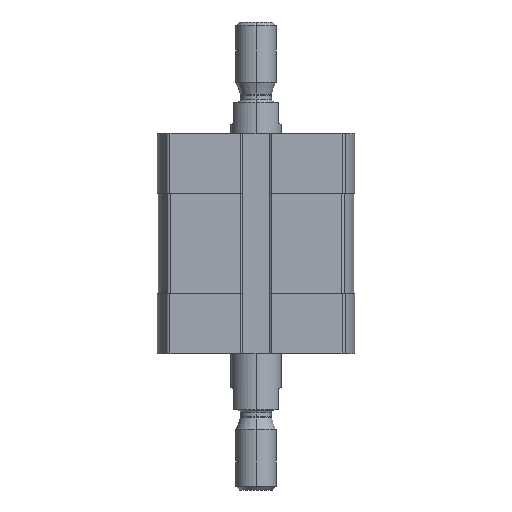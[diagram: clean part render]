
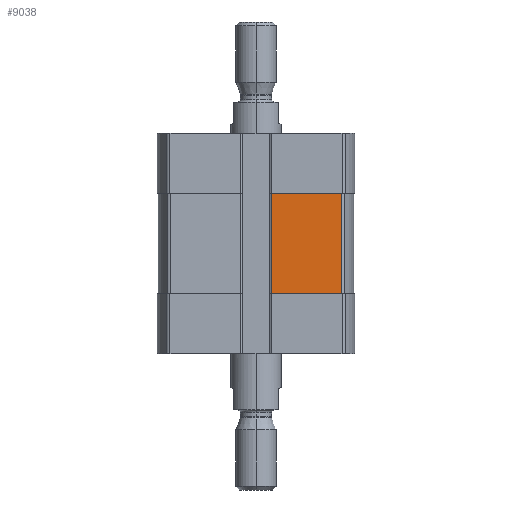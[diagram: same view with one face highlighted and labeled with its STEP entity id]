
A CAD part, left-side view. The second image highlights one B-rep face of the part: STEP entity #9038.
In plain terms, the highlighted planar face has unit normal (-1, 0, 0).
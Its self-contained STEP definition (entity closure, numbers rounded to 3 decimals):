
#93 = AXIS2_PLACEMENT_3D ( 'NONE', #8427, #11491, #3010 ) ;
#546 = VECTOR ( 'NONE', #12675, 1000. ) ;
#1104 = VERTEX_POINT ( 'NONE', #9602 ) ;
#1163 = VECTOR ( 'NONE', #10194, 1000. ) ;
#1203 = ORIENTED_EDGE ( 'NONE', *, *, #12132, .F. ) ;
#1524 = CARTESIAN_POINT ( 'NONE',  ( -19.5, -17.091, -12. ) ) ;
#1572 = VERTEX_POINT ( 'NONE', #4588 ) ;
#1711 = CARTESIAN_POINT ( 'NONE',  ( -19.5, -17.091, -32. ) ) ;
#1882 = VERTEX_POINT ( 'NONE', #1524 ) ;
#2253 = FACE_OUTER_BOUND ( 'NONE', #11994, .T. ) ;
#3010 = DIRECTION ( 'NONE',  ( 0., 0., 1. ) ) ;
#4134 = ORIENTED_EDGE ( 'NONE', *, *, #4888, .F. ) ;
#4148 = CARTESIAN_POINT ( 'NONE',  ( -19.5, -17.091, -32. ) ) ;
#4588 = CARTESIAN_POINT ( 'NONE',  ( -19.5, -3.1, -32. ) ) ;
#4888 = EDGE_CURVE ( 'NONE', #1572, #1104, #9040, .T. ) ;
#5953 = VERTEX_POINT ( 'NONE', #1711 ) ;
#6042 = CARTESIAN_POINT ( 'NONE',  ( -19.5, -3.1, -32. ) ) ;
#6182 = LINE ( 'NONE', #4148, #9963 ) ;
#6314 = DIRECTION ( 'NONE',  ( 0., 0., 1. ) ) ;
#6547 = LINE ( 'NONE', #6892, #13426 ) ;
#6892 = CARTESIAN_POINT ( 'NONE',  ( -19.5, -3.1, -12. ) ) ;
#8193 = ORIENTED_EDGE ( 'NONE', *, *, #9618, .T. ) ;
#8427 = CARTESIAN_POINT ( 'NONE',  ( -19.5, -3.1, -32. ) ) ;
#9038 = ADVANCED_FACE ( 'NONE', ( #2253 ), #10545, .T. ) ;
#9040 = LINE ( 'NONE', #6042, #1163 ) ;
#9602 = CARTESIAN_POINT ( 'NONE',  ( -19.5, -3.1, -12. ) ) ;
#9618 = EDGE_CURVE ( 'NONE', #1572, #5953, #10770, .T. ) ;
#9963 = VECTOR ( 'NONE', #6314, 1000. ) ;
#10087 = DIRECTION ( 'NONE',  ( 0., -1., 0. ) ) ;
#10194 = DIRECTION ( 'NONE',  ( 0., 0., 1. ) ) ;
#10545 = PLANE ( 'NONE',  #93 ) ;
#10770 = LINE ( 'NONE', #12739, #546 ) ;
#11491 = DIRECTION ( 'NONE',  ( -1., 0., 0. ) ) ;
#11994 = EDGE_LOOP ( 'NONE', ( #1203, #4134, #8193, #12373 ) ) ;
#12132 = EDGE_CURVE ( 'NONE', #1104, #1882, #6547, .T. ) ;
#12373 = ORIENTED_EDGE ( 'NONE', *, *, #12730, .T. ) ;
#12675 = DIRECTION ( 'NONE',  ( 0., -1., 0. ) ) ;
#12730 = EDGE_CURVE ( 'NONE', #5953, #1882, #6182, .T. ) ;
#12739 = CARTESIAN_POINT ( 'NONE',  ( -19.5, -3.1, -32. ) ) ;
#13426 = VECTOR ( 'NONE', #10087, 1000. ) ;
